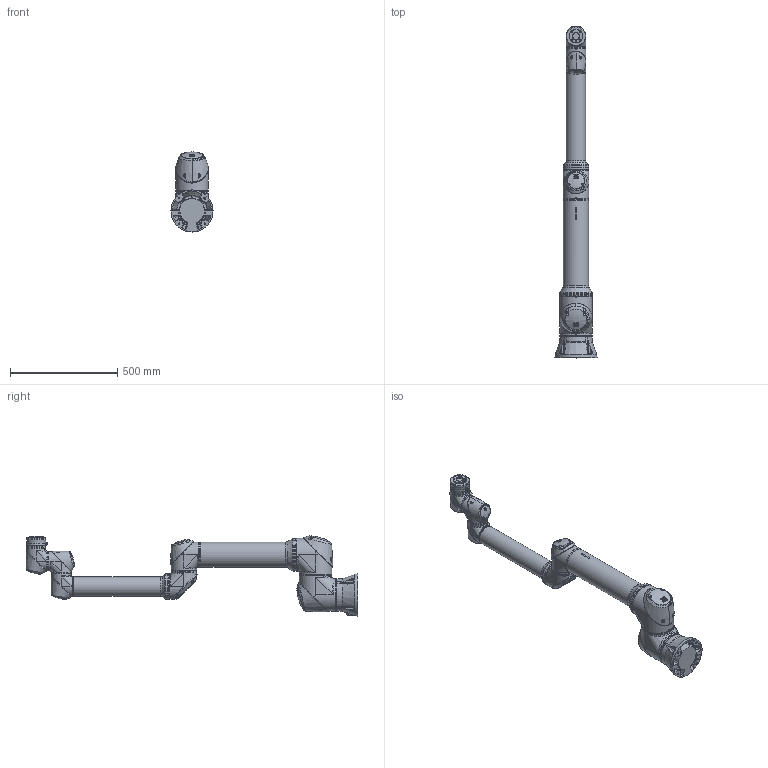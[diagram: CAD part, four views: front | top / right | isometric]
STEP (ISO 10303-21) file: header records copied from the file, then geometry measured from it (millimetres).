
FILE_DESCRIPTION(/* description */ (''),/* implementation_level */ '2;1');
FILE_NAME(/* name */ 'RB10-1300E.stp',/* time_stamp */ '2023-04-06T11:33:09+09:00',/* author */ ('ajm08'),/* organization */ (''),/* preprocessor_version */ 'ST-DEVELOPER v19.2',/* originating_system */ 'Autodesk Inventor 2023',/* authorisation */ '');
FILE_SCHEMA (('AUTOMOTIVE_DESIGN { 1 0 10303 214 3 1 1 }'));
Length unit declared in the file: millimetre
Products named in the file (8): RB10-1300E; RB10-1300E_BASE; RB10-1300E_LINK1; RB10-1300E_LINK2; RB10-1300E_LINK3; RB10-1300E_LINK4; RB10-1300E_LINK5; RB10-1300E_LINK6
Assembly tree (7 placements, depth 2):
  RB10-1300E
    RB10-1300E_BASE
    RB10-1300E_LINK1
    RB10-1300E_LINK2
    RB10-1300E_LINK3
    RB10-1300E_LINK4
    RB10-1300E_LINK5
    RB10-1300E_LINK6
Bounding box: 196.05 x 1544.49 x 372.73 mm (x, y, z)
Volume: 23683436.8 mm3; surface area: 1378500.8 mm2
Topology: 31 solids, 33 shells, 1674 faces, 4217 edges, 2744 vertices
Faces by surface type: bspline 724, plane 576, cylinder 266, cone 90, torus 18
Full cylindrical faces by diameter (mm): 1.5 x12, 2.459 x4, 4 x1, 4.5 x20, 4.917 x4, 5.5 x8, 6 x1, 6.647 x4, 8 x1, 8.5 x3, 9.8 x1, 10 x1, 11.459 x1, 12 x1, 13.233 x12, 13.666 x12, 14 x1, 14.5 x1, 16 x1, 31.5 x1, 63 x1, 80 x4, 82.2 x4, 85 x4, 88.5 x2, 90 x17, 110 x3, 111.5 x3, 112.6 x2, 115 x1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
Entity records: 211015 total; most frequent: CARTESIAN_POINT 173970, ORIENTED_EDGE 8330, DIRECTION 5388, EDGE_CURVE 4165, VERTEX_POINT 2744, AXIS2_PLACEMENT_3D 2026, EDGE_LOOP 1901, B_SPLINE_CURVE_WITH_KNOTS 1761
